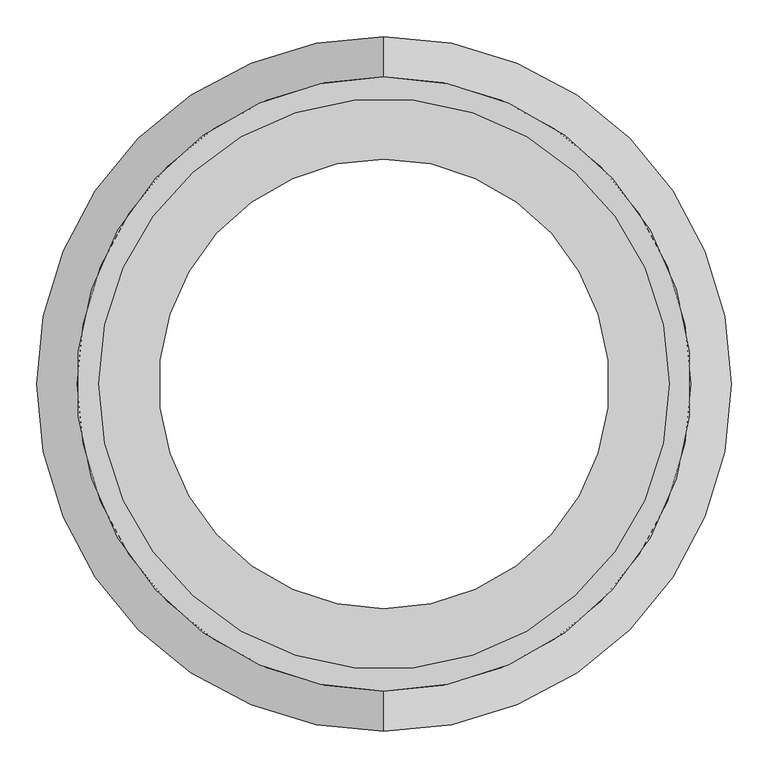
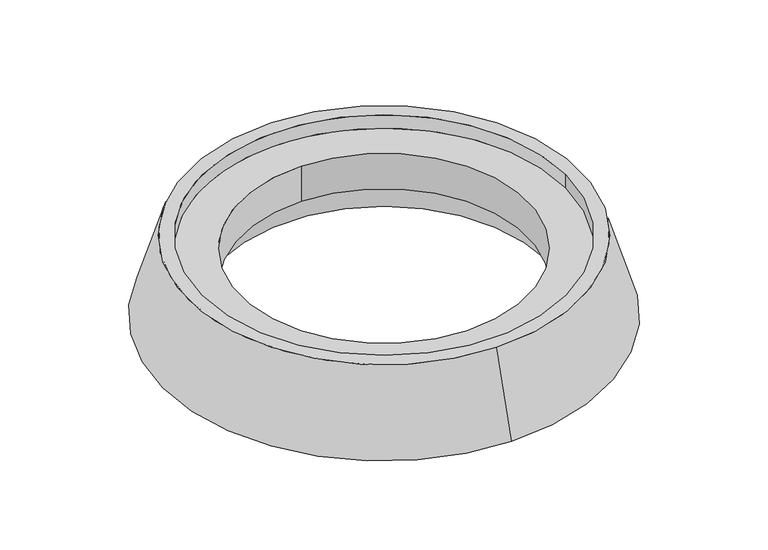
"""IFC4 building model written with IfcOpenShell, lengths in millimetres: valve geometry, Pipelife - Studnia PRO - Stożek odciążający 630 : Studnia Stożek odciążający T3 615/700."""

from ifc_helpers import new_model, si_unit, frame, origin, origin_with_axes, place, context, project, spatial, polyline, circle_curve, source, transform, mapped, element, save
from ifc_brep_helpers import plane_surface, revolved_surface, advanced_brep


def valve_9f40fc60(model_context):
    return source(origin(), model_context, "Body", "AdvancedBrep", [
        advanced_brep(
        [(0.0, 475.0, 0.0), (0.0, -475.0, 0.0), (350.0, 0.0, 0.0), (-350.0, 0.0, 0.0), (0.0, 420.0, 180.0), (0.0, -420.0, 180.0), (390.0, 0.0, 180.0), (-390.0, 0.0, 180.0), (390.0, 0.0, 150.0), (-390.0, 0.0, 150.0), (0.0, -307.5, 150.0), (0.0, 307.5, 150.0), (0.0, -307.5, 70.0), (0.0, 307.5, 70.0), (330.0, 0.0, 70.0), (-330.0, 0.0, 70.0)],
        [
            (0, 1, circle_curve(frame((0.0, 0.0, 0.0), z_axis=(0.0, 0.0, -1.0), x_axis=(0.0, 1.0, 0.0)), 475.0)),
            (1, 0, circle_curve(frame((0.0, 0.0, 0.0), z_axis=(0.0, 0.0, -1.0), x_axis=(0.0, -1.0, 0.0)), 475.0)),
            (2, 3, circle_curve(origin_with_axes(), 350.0)),
            (3, 2, circle_curve(frame((0.0, 0.0, 0.0), z_axis=(0.0, 0.0, 1.0), x_axis=(-1.0, 0.0, 0.0)), 350.0)),
            (4, 5, circle_curve(frame((0.0, 0.0, 180.0), z_axis=(0.0, 0.0, 1.0), x_axis=(0.0, -1.0, 0.0)), 420.0)),
            (5, 4, circle_curve(frame((0.0, 0.0, 180.0), z_axis=(0.0, 0.0, 1.0), x_axis=(0.0, 1.0, 0.0)), 420.0)),
            (6, 7, circle_curve(frame((0.0, 0.0, 180.0), z_axis=(0.0, 0.0, -1.0), x_axis=(-1.0, 0.0, 0.0)), 390.0)),
            (7, 6, circle_curve(frame((0.0, 0.0, 180.0), z_axis=(0.0, 0.0, -1.0), x_axis=(-1.0, 0.0, 0.0)), 390.0)),
            (0, 4),
            (5, 1),
            (8, 9, circle_curve(frame((0.0, 0.0, 150.0), z_axis=(0.0, 0.0, 1.0), x_axis=(-1.0, 0.0, 0.0)), 390.0)),
            (9, 8, circle_curve(frame((0.0, 0.0, 150.0), z_axis=(0.0, 0.0, 1.0), x_axis=(-1.0, 0.0, 0.0)), 390.0)),
            (10, 11, circle_curve(frame((0.0, 0.0, 150.0), z_axis=(0.0, 0.0, -1.0), x_axis=(0.0, -1.0, 0.0)), 307.5)),
            (11, 10, circle_curve(frame((0.0, 0.0, 150.0), z_axis=(0.0, 0.0, -1.0), x_axis=(0.0, -1.0, 0.0)), 307.5)),
            (9, 7),
            (6, 8),
            (10, 12),
            (12, 13, circle_curve(frame((0.0, 0.0, 70.0), z_axis=(0.0, 0.0, -1.0), x_axis=(0.0, -1.0, 0.0)), 307.5)),
            (13, 11),
            (13, 12, circle_curve(frame((0.0, 0.0, 70.0), z_axis=(0.0, 0.0, -1.0), x_axis=(0.0, -1.0, 0.0)), 307.5)),
            (14, 15, circle_curve(frame((0.0, 0.0, 70.0), z_axis=(0.0, 0.0, -1.0), x_axis=(-1.0, 0.0, 0.0)), 330.0)),
            (15, 14, circle_curve(frame((0.0, 0.0, 70.0), z_axis=(0.0, 0.0, -1.0), x_axis=(1.0, 0.0, 0.0)), 330.0)),
            (15, 3),
            (2, 14),
        ],
        [
            plane_surface(frame((0.0, 0.0, 0.0), z_axis=(0.0, 0.0, -1.0), x_axis=(1.0, 0.0, 0.0))),
            plane_surface(frame((0.0, 0.0, 180.0), z_axis=(0.0, 0.0, 1.0), x_axis=(1.0, 0.0, 0.0))),
            revolved_surface(polyline([(0.0, -419.99999999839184, 180.0), (0.0, -475.0, 0.0)]), (0.0, 0.0, 1554.5454545), (0.0, 0.0, -1.0)),
            revolved_surface(polyline([(0.0, 419.99999999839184, 180.0), (0.0, 475.0, 0.0)]), (0.0, 0.0, 1554.5454545), (0.0, 0.0, -1.0)),
            plane_surface(frame((0.0, 0.0, 150.0), z_axis=(0.0, 0.0, 1.0), x_axis=(0.0, -1.0, 0.0))),
            revolved_surface(polyline([(-390.0, 0.0, 150.0), (-390.0, 0.0, 180.0)]), (0.0, 0.0, 150.0), (0.0, 0.0, -1.0)),
            revolved_surface(polyline([(0.0, -307.5, 150.0), (0.0, -307.5, 70.0)]), (0.0, 0.0, 150.0), (0.0, 0.0, 1.0)),
            plane_surface(frame((0.0, 0.0, 70.0), z_axis=(0.0, 0.0, -1.0), x_axis=(0.0, 1.0, 0.0))),
            revolved_surface(polyline([(-350.0, 0.0, 0.0), (-330.0, 0.0, 70.0)]), (0.0, 0.0, 1225.0), (0.0, 0.0, -1.0)),
            revolved_surface(polyline([(350.0, 0.0, 0.0), (330.0, 0.0, 70.0)]), (0.0, 0.0, 1225.0), (0.0, 0.0, -1.0)),
        ],
        [
            (0, [[1, 2], [3, 4]]),
            (1, [[5, 6], [7, 8]]),
            (2, [[-1, 9, -6, 10]]),
            (3, [[-2, -10, -5, -9]]),
            (4, [[11, 12], [13, 14]]),
            (5, [[-12, 15, -7, 16]]),
            (5, [[-11, -16, -8, -15]]),
            (6, [[17, 18, 19, -13]]),
            (6, [[-17, -14, -19, 20]]),
            (7, [[21, 22], [-18, -20]]),
            (8, [[-22, 23, -3, 24]]),
            (9, [[-21, -24, -4, -23]]),
        ],
    ),
    ])


if __name__ == "__main__":
    model = new_model("IFC4")
    model_context = context("Model", 3, world=origin())
    ifc_project = project(units=[si_unit("LENGTHUNIT", "METRE", prefix="MILLI")], contexts=[model_context])
    site = spatial("IfcSite", under=ifc_project)
    building = spatial("IfcBuilding", under=site)
    placement = place(None, origin())
    valve_shape = valve_9f40fc60(model_context)
    element("IfcValve", 1, ObjectType="Pipelife - Studnia PRO - Stożek odciążający 630 : Studnia Stożek odciążający T3 615/700", at=placement, inside=building, context=model_context, shape_type="MappedRepresentation", body=[
        mapped(valve_shape, transform((0.0, 0.0, 0.0), x_axis=(1.0, 0.0, 0.0), y_axis=(0.0, 1.0, 0.0), z_axis=(0.0, 0.0, 1.0))),
    ])
    save(model, "model.ifc")
